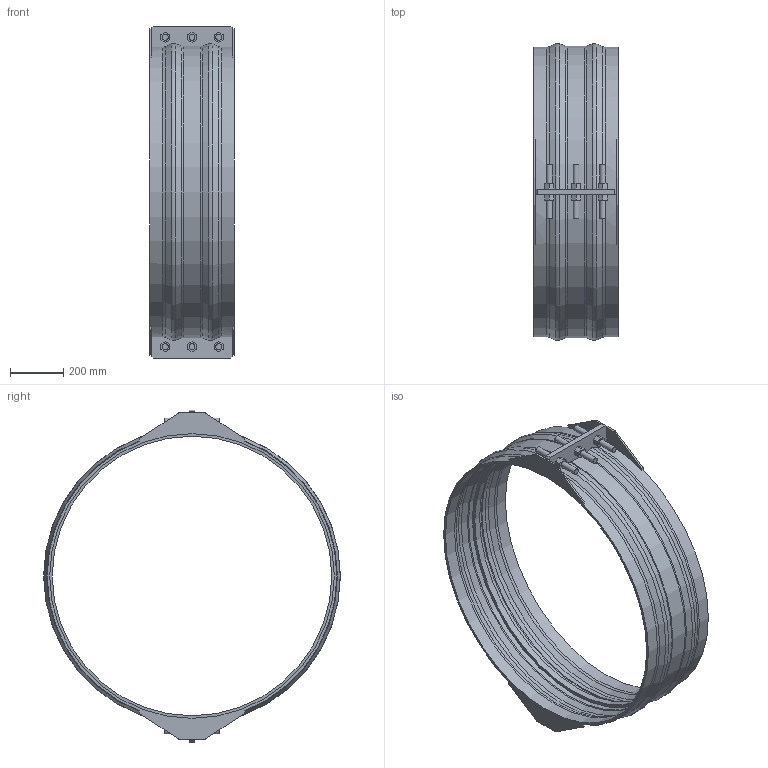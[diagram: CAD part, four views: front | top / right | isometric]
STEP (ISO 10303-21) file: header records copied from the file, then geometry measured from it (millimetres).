
FILE_DESCRIPTION(/* description */ ('VIC RESTRAINED COUPLING STYLE 233 (FLEX) (BRD)','CAx-IF Rec.Pracs.---Representation and Presentation of Product Manufacturing Information (PMI)---4.0---2014-10-13'),/* implementation_level */ '2;1');
FILE_NAME(/* name */ 'C:\Users\Vjadhav\Desktop\CAD for Inventor\Test for STEP\Vivek\Adsk_Inventor_Bolted Sleeve_iParts\STEP\Victaulic_VBSP_Coupling Flexible Restrained_Style 233 (BRD)\Victaulic_VBSP_Coupling Flexible Restrained_Style 233 (BRD)_200psi_42 (1050).stp',/* time_stamp */ '2020-09-24T12:29:53+06:00',/* author */ ('Vjadhav'),/* organization */ ('Victaulic'),/* preprocessor_version */ 'ST-DEVELOPER v17.2',/* originating_system */ 'Autodesk Inventor 2019',/* authorisation */ '');
FILE_SCHEMA (('AP242_MANAGED_MODEL_BASED_3D_ENGINEERING_MIM_LF { 1 0 10303 442 1 1 4 }'));
Length unit declared in the file: inch
Products named in the file (1): Style_233_Type_2_200psi-42.0
Bounding box: 317.5 x 1112.54 x 1244.6 mm (x, y, z)
Volume: 13424919.9 mm3; surface area: 2683997.6 mm2
Topology: 1 solids, 1 shells, 211 faces, 557 edges, 374 vertices
Faces by surface type: plane 142, cylinder 39, torus 18, cone 12
Full cylindrical faces by diameter (mm): 22.225 x12, 1047.75 x1, 1066.8 x2, 1073.15 x2
Entity records: 7040 total; most frequent: CARTESIAN_POINT 1368, DIRECTION 1119, ORIENTED_EDGE 1114, EDGE_CURVE 557, LINE 381, VECTOR 381, VERTEX_POINT 374, AXIS2_PLACEMENT_3D 369
